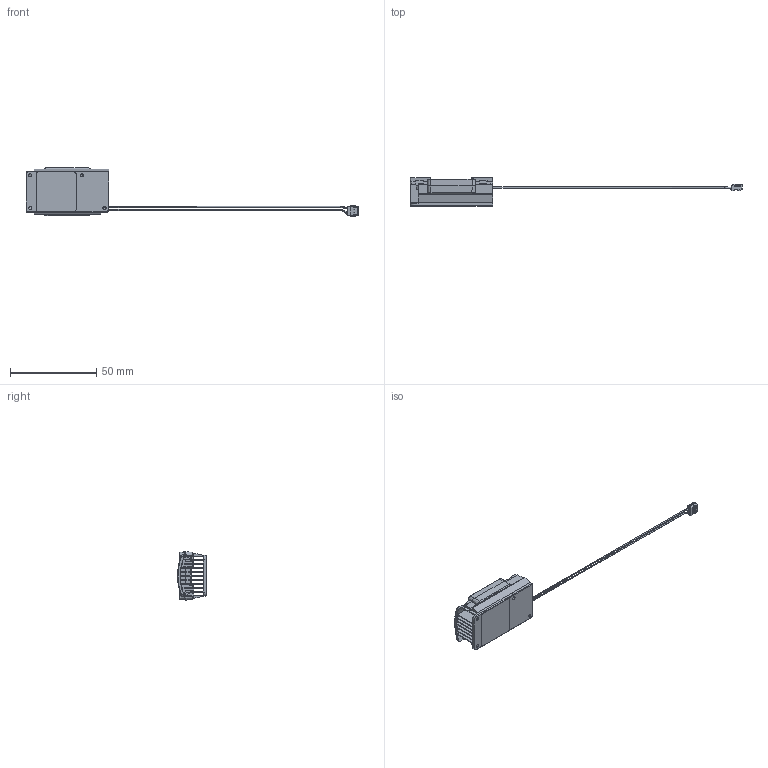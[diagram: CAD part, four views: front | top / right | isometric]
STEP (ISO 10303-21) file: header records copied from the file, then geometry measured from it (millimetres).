
FILE_DESCRIPTION((''),'2;1');
FILE_NAME('MIG_CONCEPT-DEV-KIT_FANSINK_V4_ASM','2017-02-22T',('smceuen'),('INTEL'),'CREO PARAMETRIC BY PTC INC, 2015380','CREO PARAMETRIC BY PTC INC, 2015380','');
FILE_SCHEMA(('CONFIG_CONTROL_DESIGN'));
Length unit declared in the file: millimetre
Products named in the file (5): MIG_CONCEPT-DEV-KIT_FAN-SHRD_V4; FAN_SUNON_MC25060V1-0000-A99; GT_EXAMPLE_TIM; J50575; MIG_CONCEPT-DEV-KIT_FANSINK_V4_ASM
Assembly tree (4 placements, depth 2):
  MIG_CONCEPT-DEV-KIT_FANSINK_V4_ASM
    MIG_CONCEPT-DEV-KIT_FAN-SHRD_V4
    FAN_SUNON_MC25060V1-0000-A99
    GT_EXAMPLE_TIM
    J50575
Bounding box: 192.5 x 16.75 x 28.01 mm (x, y, z)
Volume: 7903.2 mm3; surface area: 17708.3 mm2
Topology: 5 solids, 5 shells, 1018 faces, 2950 edges, 1899 vertices
Faces by surface type: plane 566, cylinder 273, bspline 139, torus 28, extrusion 6, cone 6
Entity records: 44371 total; most frequent: CARTESIAN_POINT 18619, ORIENTED_EDGE 5894, DIRECTION 4655, EDGE_CURVE 2947, VERTEX_POINT 1899, VECTOR 1789, LINE 1783, AXIS2_PLACEMENT_3D 1433
